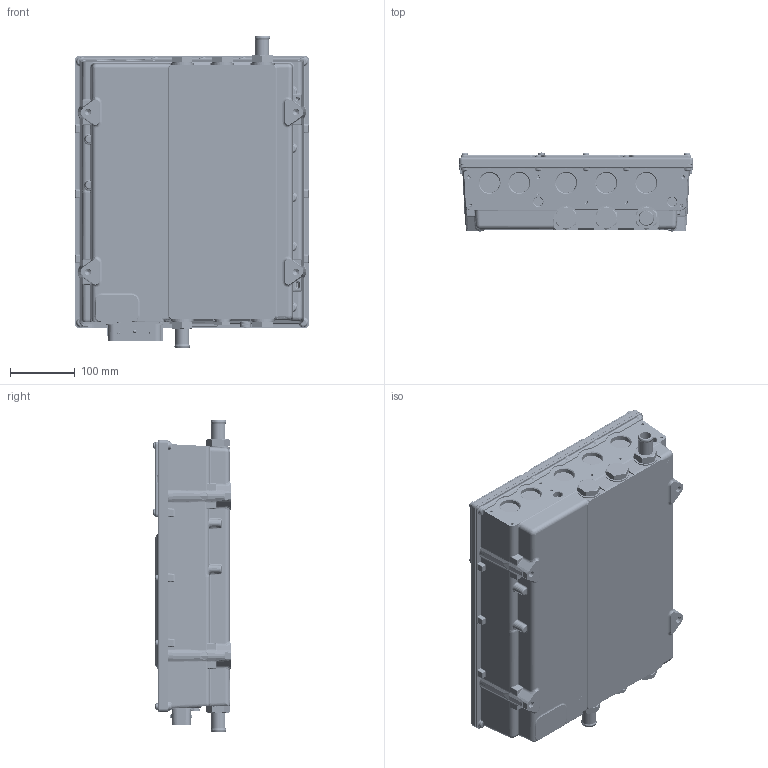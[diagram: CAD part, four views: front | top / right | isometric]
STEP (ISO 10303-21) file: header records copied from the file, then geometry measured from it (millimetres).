
FILE_DESCRIPTION(/* description */ (''),/* implementation_level */ '2;1');
FILE_NAME(/* name */ 'C:\1SSDE Vault\CAD\GVI\GVI_Frame_G\GVI_Frame_G_Shrinkwrap_1.stp',/* time_stamp */ '2019-09-12T14:54:47+01:00',/* author */ ('SC084691'),/* organization */ (''),/* preprocessor_version */ 'ST-DEVELOPER v18',/* originating_system */ 'Autodesk Inventor 2020',/* authorisation */ '');
FILE_SCHEMA (('CONFIG_CONTROL_DESIGN'));
Products named in the file (1): GVI_Frame_G_Shrinkwrap_1
Bounding box: 361.5 x 121.8 x 483.35 mm (x, y, z)
Volume: 12494795.9 mm3; surface area: 1144431.3 mm2
Topology: 41 solids, 41 shells, 14430 faces, 33179 edges, 19028 vertices
Faces by surface type: cone 4614, cylinder 2965, plane 2717, torus 2278, bspline 1693, sphere 163
Full cylindrical faces by diameter (mm): 1.6 x2, 2.5 x2, 2.8 x2, 2.809 x24, 3 x22, 3.131 x4, 3.6 x2, 3.7 x4, 4 x16, 4.05 x4, 4.2 x14, 4.5 x4, 4.6 x12, 5.6 x4, 5.8 x15, 6 x1, 6.78 x1, 7.22 x1, 8.5 x6, 9.5 x16, 10.5 x1, 10.8 x1, 12 x2, 14 x2, 14.3 x1, 15 x1, 15.4 x1, 16.5 x1, 17 x1, 18 x3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
Entity records: 538693 total; most frequent: CARTESIAN_POINT 203024, DIRECTION 69971, ORIENTED_EDGE 65980, EDGE_CURVE 32990, AXIS2_PLACEMENT_3D 27791, VERTEX_POINT 19028, EDGE_LOOP 14988, CIRCLE 14572
